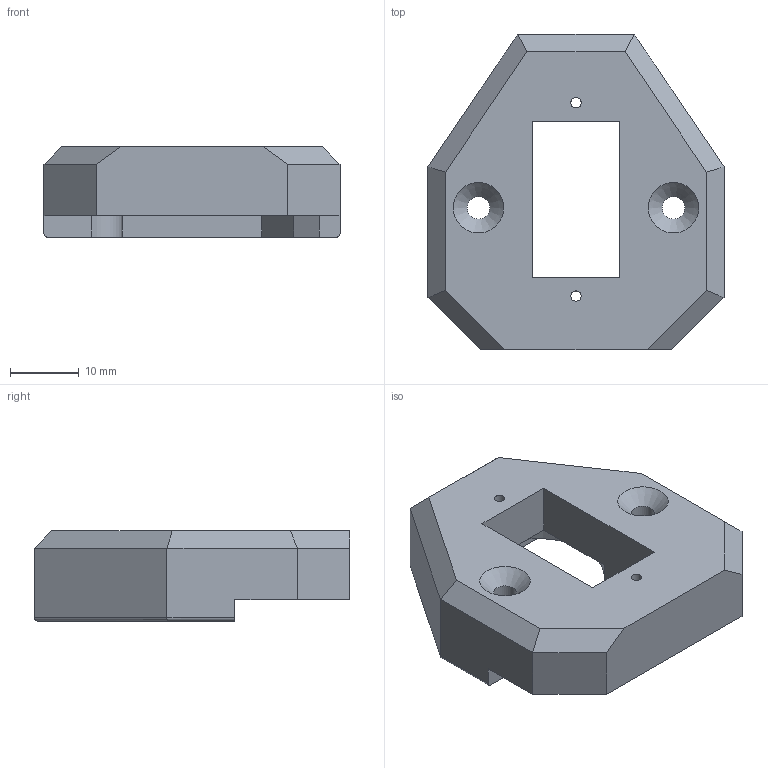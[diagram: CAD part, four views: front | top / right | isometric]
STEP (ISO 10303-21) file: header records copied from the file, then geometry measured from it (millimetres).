
FILE_DESCRIPTION(/* description */ ('STEP AP242','CAx-IF Rec.Pracs.---Representation and Presentation of Product Manufacturing Information (PMI)---4.0---2014-10-13','CAx-IF Rec.Pracs.---3D Tessellated Geometry---0.4---2014-09-14','2;1'),/* implementation_level */ '2;1');
FILE_NAME(/* name */ '6367a9ae0f60637f9a1aee8d',/* time_stamp */ '2022-11-06T12:33:51+00:00',/* author */ (''),/* organization */ (''),/* preprocessor_version */ 'ST-DEVELOPER v18.102',/* originating_system */ ' ',/* authorisation */ ' ');
FILE_SCHEMA (('AP242_MANAGED_MODEL_BASED_3D_ENGINEERING_MIM_LF { 1 0 10303 442 1 1 4 }'));
Length unit declared in the file: metre
Products named in the file (1): Palm Top
Bounding box: 43.18 x 46.02 x 13.18 mm (x, y, z)
Volume: 13895.6 mm3; surface area: 5778.7 mm2
Topology: 1 solids, 1 shells, 53 faces, 135 edges, 86 vertices
Faces by surface type: plane 35, cylinder 13, torus 3, cone 2
Full cylindrical faces by diameter (mm): 1.524 x2, 3.302 x2, 5.08 x2
Entity records: 1540 total; most frequent: CARTESIAN_POINT 258, DIRECTION 256, ORIENTED_EDGE 242, EDGE_CURVE 121, LINE 94, VECTOR 94, VERTEX_POINT 83, AXIS2_PLACEMENT_3D 81
